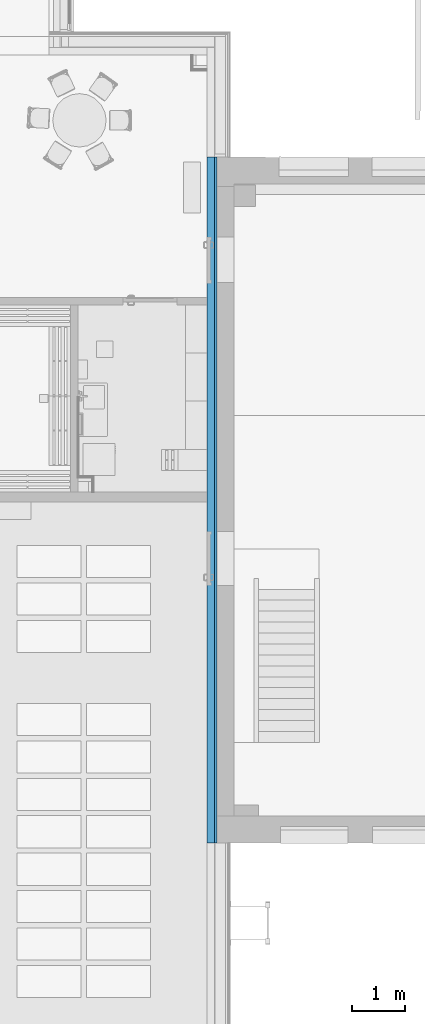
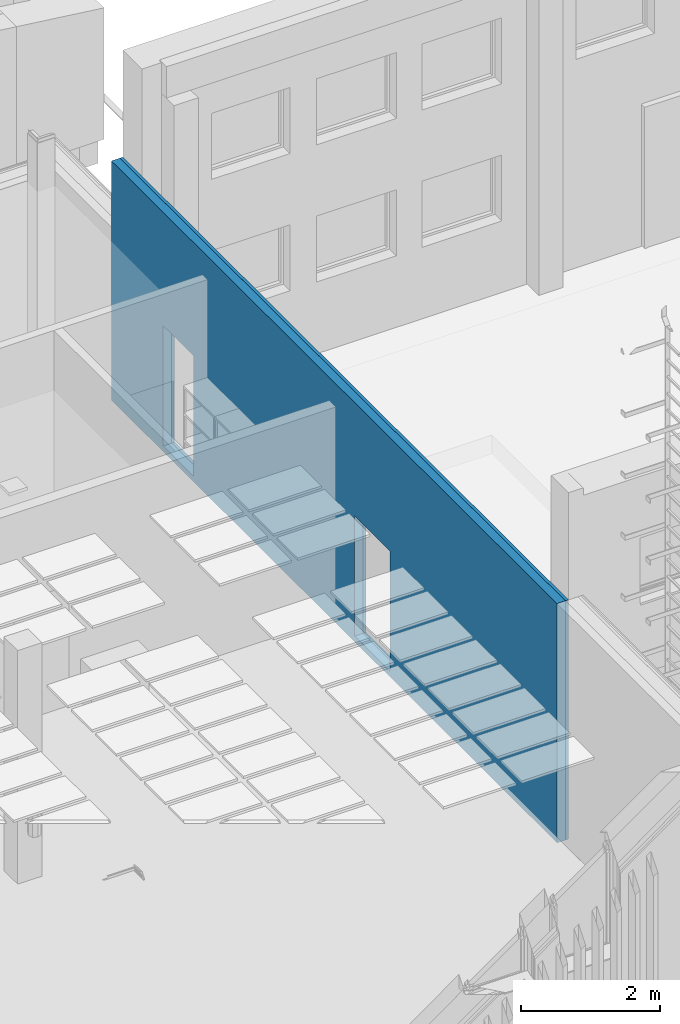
# One storey, part 210 of 301: 2 building element parts, 2 openings, 1 element without a shape of its own.
"""IFC2X3 building model written with IfcOpenShell, lengths in millimetres."""

from ifc_helpers import new_model, entity, si_unit, converted_unit, derived_unit, money_unit, direction, frame, origin_with_axes, place, context, subcontext, project, spatial, faceted_brep, material, type_object, element, aggregate, save


model = new_model("IFC2X3")

# Units and contexts
model_context = context("Model", 3, precision=0.01, world=origin_with_axes(), true_north=direction((0.0, 1.0)))
body_context = subcontext(model_context, "Body", "Model", "MODEL_VIEW")
ifc_project = project(units=[si_unit("LENGTHUNIT", "METRE", prefix="MILLI"), si_unit("AREAUNIT", "SQUARE_METRE"), si_unit("VOLUMEUNIT", "CUBIC_METRE"), converted_unit("PLANEANGLEUNIT", "DEGREE", entity("IfcPlaneAngleMeasure", 0.0174532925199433), si_unit("PLANEANGLEUNIT", "RADIAN"), dimensions=[0, 0, 0, 0, 0, 0, 0]), money_unit("EUR"), converted_unit("TIMEUNIT", "Year", entity("IfcTimeMeasure", 31557600.0), si_unit("TIMEUNIT", "SECOND"), dimensions=[0, 0, 1, 0, 0, 0, 0]), si_unit("MASSUNIT", "GRAM", prefix="KILO"), si_unit("THERMODYNAMICTEMPERATUREUNIT", "DEGREE_CELSIUS"), si_unit("LUMINOUSINTENSITYUNIT", "LUMEN"), si_unit("ENERGYUNIT", "JOULE", prefix="MEGA"), derived_unit("THERMALCONDUCTANCEUNIT", [(si_unit("POWERUNIT", "WATT"), 1), (si_unit("LENGTHUNIT", "METRE"), -1), (si_unit("THERMODYNAMICTEMPERATUREUNIT", "KELVIN"), -1)]), derived_unit("SPECIFICHEATCAPACITYUNIT", [(si_unit("ENERGYUNIT", "JOULE"), 1), (si_unit("MASSUNIT", "GRAM", prefix="KILO"), -1), (si_unit("THERMODYNAMICTEMPERATUREUNIT", "KELVIN"), -1)]), derived_unit("MASSDENSITYUNIT", [(si_unit("MASSUNIT", "GRAM", prefix="KILO"), 1), (si_unit("VOLUMEUNIT", "CUBIC_METRE"), -1)])], contexts=[model_context])

# Site, building, storey
site_placement = place(None, frame((0.0, 0.0, 8650.0), z_axis=(0.0, 0.0, 1.0), x_axis=(1.0, 0.0, 0.0)))
site = spatial("IfcSite", under=ifc_project, at=site_placement, Name="43301:001:0844", CompositionType="ELEMENT")
building_placement = place(site_placement, origin_with_axes())
building = spatial("IfcBuilding", under=site, at=building_placement, Name="Kuressaare Ametikooli tuulikute mehaanikute õppekorpus", CompositionType="ELEMENT")
storey_placement = place(building_placement, origin_with_axes())
storey = spatial("IfcBuildingStorey", under=building, at=storey_placement, Name="1.korrus", CompositionType="ELEMENT", Elevation=0.0)

# Wall, openings, building element parts
wall_type = type_object("IfcWallType", Name="SS-2.6 190", PredefinedType="NOTDEFINED")
wall_placement = place(storey_placement, frame((133024.9464416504, 13517.65771690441, -99.99999999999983), z_axis=(0.0, 0.0, 1.0), x_axis=(0.0, 1.0, 0.0)))
wall = element("IfcWall", 1, at=wall_placement, inside=storey, type_object=wall_type, Name="Sisesein")
opening_1_placement = place(wall_placement, frame((5315.00000657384, 0.0, 99.99999999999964), z_axis=(0.0, 0.0, 1.0), x_axis=(1.0, 0.0, 0.0)))
element("IfcOpeningElement", 2, at=opening_1_placement, cuts=wall, Name="TU10,EI30", context=body_context, shape_type="Brep", body=[
    faceted_brep([(-504.999999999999, -191.0000000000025, 2110.0), (-504.999999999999, -191.0000000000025, 0.0), (504.999999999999, -191.0000000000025, 0.0), (504.999999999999, -191.0000000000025, 2110.0), (-504.999999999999, 1.000000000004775, 2110.0), (-504.999999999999, 1.000000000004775, 0.0), (504.999999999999, 1.000000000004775, 0.0), (504.999999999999, 1.000000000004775, 2110.0)], [[[0, 1, 2, 3]], [[4, 5, 1, 0]], [[5, 6, 2, 1]], [[6, 7, 3, 2]], [[7, 4, 0, 3]], [[6, 5, 4, 7]]]),
])
opening_2_placement = place(wall_placement, frame((10891.87106117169, 0.0, 99.99999999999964), z_axis=(0.0, 0.0, 1.0), x_axis=(1.0, 0.0, 0.0)))
element("IfcOpeningElement", 3, at=opening_2_placement, cuts=wall, Name="TU8,5,EI30", context=body_context, shape_type="Brep", body=[
    faceted_brep([(-434.9999999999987, -191.0000000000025, 2110.0), (-434.9999999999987, -191.0000000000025, 0.0), (434.9999999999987, -191.0000000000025, 0.0), (434.9999999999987, -191.0000000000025, 2110.0), (-434.9999999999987, 1.000000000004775, 2110.0), (-434.9999999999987, 1.000000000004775, 0.0), (434.9999999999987, 1.000000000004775, 0.0), (434.9999999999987, 1.000000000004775, 2110.0)], [[[0, 1, 2, 3]], [[4, 5, 1, 0]], [[5, 6, 2, 1]], [[6, 7, 3, 2]], [[7, 4, 0, 3]], [[6, 5, 4, 7]]]),
])
ifc_material_1 = material(Name="Puit - CLT")
building_element_part_1_placement = place(wall_placement, origin_with_axes())
building_element_part_1 = element("IfcBuildingElementPart", 4, at=building_element_part_1_placement, material=ifc_material_1, Name="Puit - CLT", context=body_context, shape_type="Brep", body=[
    faceted_brep([(0.0, 0.0, 0.0), (0.0, 0.0, 4199.999999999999), (12817.67106893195, 0.0, 4199.999999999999), (12817.67106893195, 0.0, 0.0), (5820.000006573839, 0.0, 99.99999999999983), (5820.000006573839, 0.0, 2210.0), (4810.00000657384, 0.0, 2210.0), (4810.00000657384, 0.0, 99.99999999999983), (10456.87106117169, 0.0, 99.99999999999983), (11326.87106117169, 0.0, 99.99999999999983), (11326.87106117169, 0.0, 2210.0), (10456.87106117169, 0.0, 2210.0), (0.0, -139.9999999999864, 4199.999999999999), (0.0, -139.9999999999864, 0.0), (12817.67106893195, -139.9999999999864, 4199.999999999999), (12817.67106893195, -139.9999999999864, 0.0), (5820.000006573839, -139.9999999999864, 2210.0), (5820.000006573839, -139.9999999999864, 99.99999999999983), (4810.00000657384, -139.9999999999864, 2210.0), (4810.00000657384, -139.9999999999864, 99.99999999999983), (10456.87106117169, -139.9999999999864, 99.99999999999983), (11326.87106117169, -139.9999999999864, 99.99999999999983), (11326.87106117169, -139.9999999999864, 2210.0), (10456.87106117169, -139.9999999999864, 2210.0)], [[[0, 1, 2, 3], [4, 5, 6, 7], [8, 9, 10, 11]], [[12, 1, 0, 13]], [[1, 12, 14, 2]], [[14, 15, 3, 2]], [[13, 0, 3, 15]], [[16, 5, 4, 17]], [[18, 6, 5, 16]], [[19, 7, 6, 18]], [[17, 4, 7, 19]], [[20, 21, 9, 8]], [[21, 22, 10, 9]], [[22, 23, 11, 10]], [[23, 20, 8, 11]], [[12, 13, 15, 14], [18, 16, 17, 19], [20, 23, 22, 21]]]),
])
ifc_material_2 = material(Name="Soojustus - Mineraalvill pehme")
building_element_part_2_placement = place(wall_placement, origin_with_axes())
building_element_part_2 = element("IfcBuildingElementPart", 5, at=building_element_part_2_placement, material=ifc_material_2, Name="Soojustus - Mineraalvill pehme", context=body_context, shape_type="Brep", body=[
    faceted_brep([(0.0, -139.9999999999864, 0.0), (0.0, -139.9999999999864, 4199.999999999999), (12817.67106893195, -139.9999999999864, 4199.999999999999), (12817.67106893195, -139.9999999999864, 0.0), (5820.000006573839, -139.9999999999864, 99.99999999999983), (5820.000006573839, -139.9999999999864, 2210.0), (4810.00000657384, -139.9999999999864, 2210.0), (4810.00000657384, -139.9999999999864, 99.99999999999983), (10456.87106117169, -139.9999999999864, 99.99999999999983), (11326.87106117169, -139.9999999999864, 99.99999999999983), (11326.87106117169, -139.9999999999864, 2210.0), (10456.87106117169, -139.9999999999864, 2210.0), (0.0, -189.9999999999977, 4199.999999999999), (0.0, -189.9999999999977, 0.0), (12817.67106893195, -189.9999999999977, 4199.999999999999), (12817.67106893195, -189.9999999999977, 0.0), (5820.000006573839, -189.9999999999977, 2210.0), (5820.000006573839, -189.9999999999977, 99.99999999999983), (4810.00000657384, -189.9999999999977, 2210.0), (4810.00000657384, -189.9999999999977, 99.99999999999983), (10456.87106117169, -189.9999999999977, 99.99999999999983), (11326.87106117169, -189.9999999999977, 99.99999999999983), (11326.87106117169, -189.9999999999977, 2210.0), (10456.87106117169, -189.9999999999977, 2210.0)], [[[0, 1, 2, 3], [4, 5, 6, 7], [8, 9, 10, 11]], [[12, 1, 0, 13]], [[1, 12, 14, 2]], [[14, 15, 3, 2]], [[13, 0, 3, 15]], [[16, 5, 4, 17]], [[18, 6, 5, 16]], [[19, 7, 6, 18]], [[17, 4, 7, 19]], [[20, 21, 9, 8]], [[21, 22, 10, 9]], [[22, 23, 11, 10]], [[23, 20, 8, 11]], [[12, 13, 15, 14], [18, 16, 17, 19], [20, 23, 22, 21]]]),
])
aggregate(wall, [building_element_part_1, building_element_part_2])

save(model, "model.ifc")
